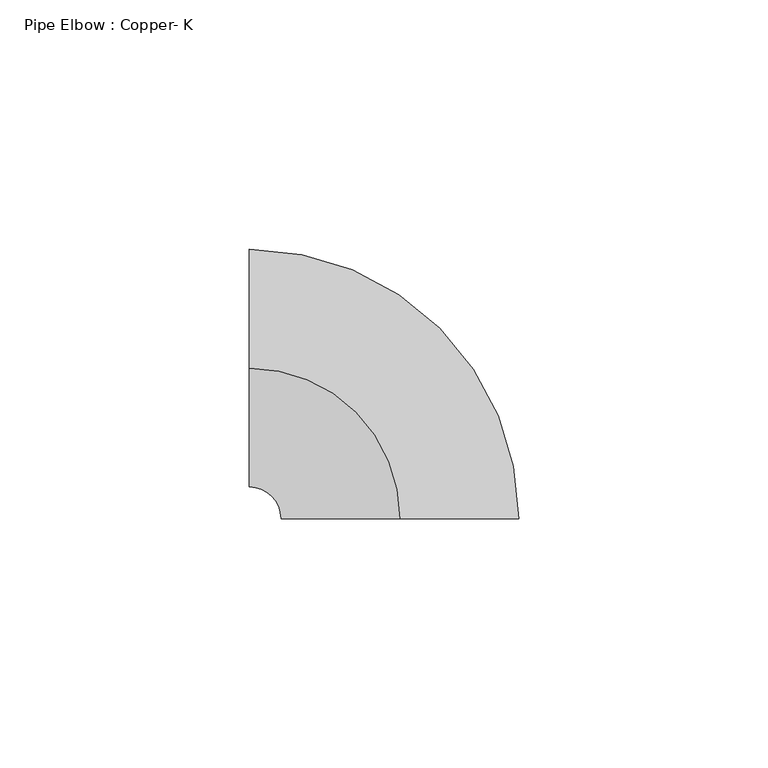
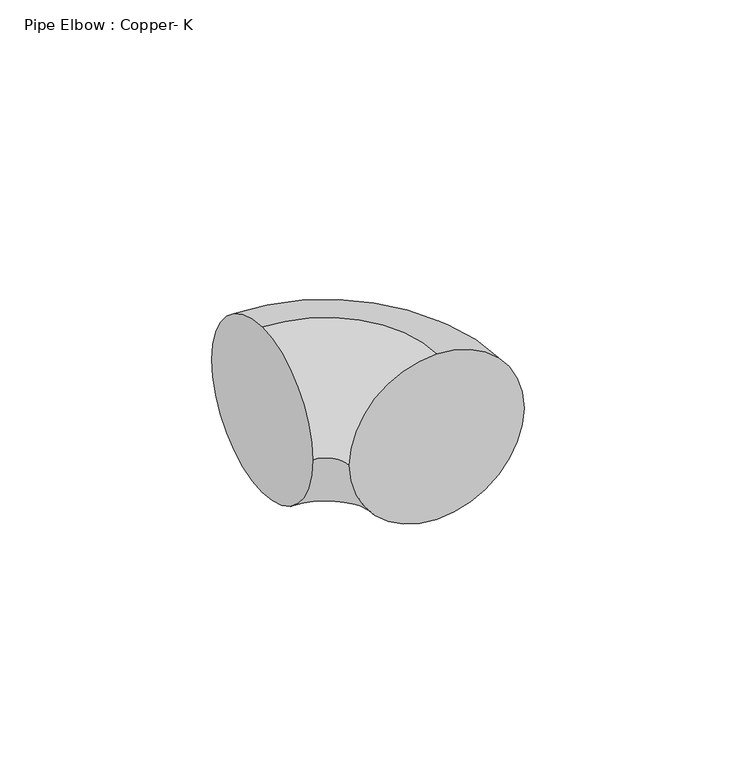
"""IFC4 building model written with IfcOpenShell, lengths in millimetres: pipe fitting geometry, Pipe Elbow : Copper- K."""

from ifc_helpers import new_model, si_unit, point, frame, origin, place, context, project, spatial, circle_curve, ellipse_curve, trimmed, source, transform, mapped, element, save
from ifc_brep_helpers import plane_surface, revolved_surface, advanced_brep


def pipe_elbow_copper_k_d9236e9c(model_context):
    return source(origin(), model_context, "Body", "AdvancedBrep", [
        advanced_brep(
        [(-30.1658987, 0.0, 23.8125), (-30.1658987, 23.8125, 0.0), (-30.1658987, 0.0, -23.8125), (-30.1658987, -23.8125, 0.0), (-0.0033989, -30.1658985, 23.8125), (-23.8158987, -30.1632155, 0.0), (-0.0033989, -30.1658985, -23.8125), (23.809101, -30.1685815, 0.0)],
        [
            (0, 1, circle_curve(frame((-30.1658987, 0.0, 0.0), z_axis=(-1.0, 0.0, 0.0), x_axis=(0.0, -1.0, 0.0)), 23.8125)),
            (1, 2, circle_curve(frame((-30.1658987, 0.0, 0.0), z_axis=(-1.0, 0.0, 0.0), x_axis=(0.0, -1.0, 0.0)), 23.8125)),
            (2, 3, circle_curve(frame((-30.1658987, 0.0, 0.0), z_axis=(-1.0, 0.0, 0.0), x_axis=(0.0, -1.0, 0.0)), 23.8125)),
            (3, 0, circle_curve(frame((-30.1658987, 0.0, 0.0), z_axis=(-1.0, 0.0, 0.0), x_axis=(0.0, -1.0, 0.0)), 23.8125)),
            (4, 5, circle_curve(frame((-0.0033989, -30.1658985, 0.0), z_axis=(-0.00011267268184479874, -0.9999999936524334, 0.0), x_axis=(-0.9999999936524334, 0.00011267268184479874, 0.0)), 23.8125)),
            (5, 6, circle_curve(frame((-0.0033989, -30.1658985, 0.0), z_axis=(-0.00011267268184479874, -0.9999999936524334, 0.0), x_axis=(-0.9999999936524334, 0.00011267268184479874, 0.0)), 23.8125)),
            (6, 7, circle_curve(frame((-0.0033989, -30.1658985, 0.0), z_axis=(-0.00011267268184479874, -0.9999999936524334, 0.0), x_axis=(-0.9999999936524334, 0.00011267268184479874, 0.0)), 23.8125)),
            (7, 4, circle_curve(frame((-0.0033989, -30.1658985, 0.0), z_axis=(-0.00011267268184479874, -0.9999999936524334, 0.0), x_axis=(-0.9999999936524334, 0.00011267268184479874, 0.0)), 23.8125)),
            (4, 0, circle_curve(frame((-30.1658987, -30.1625, 23.8125), z_axis=(0.0, 0.0, 1.0), x_axis=(0.0, 1.0, 0.0)), 30.1625)),
            (3, 5, circle_curve(frame((-30.1658987, -30.1625, 0.0), z_axis=(0.0, 0.0, -1.0), x_axis=(0.0, 1.0, 0.0)), 6.35)),
            (2, 6, circle_curve(frame((-30.1658987, -30.1625, -23.8125), z_axis=(0.0, 0.0, -1.0), x_axis=(0.0, 1.0, 0.0)), 30.1625)),
            (1, 7, circle_curve(frame((-30.1658987, -30.1625, 0.0), z_axis=(0.0, 0.0, -1.0), x_axis=(0.0, 1.0, 0.0)), 53.975)),
        ],
        [
            plane_surface(frame((-30.1658987, 0.0, 0.0), z_axis=(-1.0, 0.0, 0.0), x_axis=(0.0, 0.0, 1.0))),
            plane_surface(frame((-0.0033989, -30.1658985, 0.0), z_axis=(-0.00011267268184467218, -0.9999999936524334, 0.0), x_axis=(0.0, 0.0, 1.0))),
            revolved_surface(trimmed(ellipse_curve(frame((-30.1658987, 0.0, 0.0), z_axis=(1.0, 0.0, 0.0), x_axis=(0.0, -1.0, 0.0)), 23.8125, 23.8125), [point((-30.1658987, 0.0, 23.8125))], [point((-30.1658987, -23.8125, 0.0))], True, "CARTESIAN"), (-30.1658987, -30.1625, 0.0), (0.0, 0.0, 1.0)),
            revolved_surface(trimmed(ellipse_curve(frame((-30.1658987, 0.0, 0.0), z_axis=(1.0, 0.0, 0.0), x_axis=(0.0, -1.0, 0.0)), 23.8125, 23.8125), [point((-30.1658987, -23.8125, 0.0))], [point((-30.1658987, 0.0, -23.8125))], True, "CARTESIAN"), (-30.1658987, -30.1625, 0.0), (0.0, 0.0, 1.0)),
            revolved_surface(trimmed(ellipse_curve(frame((-30.1658987, 0.0, 0.0), z_axis=(1.0, 0.0, 0.0), x_axis=(0.0, -1.0, 0.0)), 23.8125, 23.8125), [point((-30.1658987, 0.0, -23.8125))], [point((-30.1658987, 23.8125, 0.0))], True, "CARTESIAN"), (-30.1658987, -30.1625, 0.0), (0.0, 0.0, 1.0)),
            revolved_surface(trimmed(ellipse_curve(frame((-30.1658987, 0.0, 0.0), z_axis=(1.0, 0.0, 0.0), x_axis=(0.0, -1.0, 0.0)), 23.8125, 23.8125), [point((-30.1658987, 23.8125, 0.0))], [point((-30.1658987, 0.0, 23.8125))], True, "CARTESIAN"), (-30.1658987, -30.1625, 0.0), (0.0, 0.0, 1.0)),
        ],
        [
            (0, [[1, 2, 3, 4]]),
            (1, [[5, 6, 7, 8]]),
            (2, [[-5, 9, -4, 10]]),
            (3, [[-6, -10, -3, 11]]),
            (4, [[-7, -11, -2, 12]]),
            (5, [[-8, -12, -1, -9]]),
        ],
    ),
        advanced_brep(
        [(-30.1658987, 0.0, 23.8125), (-30.1658987, 23.8125, 0.0), (-30.1658987, 0.0, -23.8125), (-30.1658987, -23.8125, 0.0), (-0.0033989, -30.1658985, 23.8125), (-23.8158987, -30.1632155, 0.0), (-0.0033989, -30.1658985, -23.8125), (23.809101, -30.1685815, 0.0)],
        [
            (0, 1, circle_curve(frame((-30.1658987, 0.0, 0.0), z_axis=(-1.0, 0.0, 0.0), x_axis=(0.0, -1.0, 0.0)), 23.8125)),
            (1, 2, circle_curve(frame((-30.1658987, 0.0, 0.0), z_axis=(-1.0, 0.0, 0.0), x_axis=(0.0, -1.0, 0.0)), 23.8125)),
            (2, 3, circle_curve(frame((-30.1658987, 0.0, 0.0), z_axis=(-1.0, 0.0, 0.0), x_axis=(0.0, -1.0, 0.0)), 23.8125)),
            (3, 0, circle_curve(frame((-30.1658987, 0.0, 0.0), z_axis=(-1.0, 0.0, 0.0), x_axis=(0.0, -1.0, 0.0)), 23.8125)),
            (4, 5, circle_curve(frame((-0.0033989, -30.1658985, 0.0), z_axis=(-0.00011267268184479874, -0.9999999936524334, 0.0), x_axis=(-0.9999999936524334, 0.00011267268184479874, 0.0)), 23.8125)),
            (5, 6, circle_curve(frame((-0.0033989, -30.1658985, 0.0), z_axis=(-0.00011267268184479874, -0.9999999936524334, 0.0), x_axis=(-0.9999999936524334, 0.00011267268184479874, 0.0)), 23.8125)),
            (6, 7, circle_curve(frame((-0.0033989, -30.1658985, 0.0), z_axis=(-0.00011267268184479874, -0.9999999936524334, 0.0), x_axis=(-0.9999999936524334, 0.00011267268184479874, 0.0)), 23.8125)),
            (7, 4, circle_curve(frame((-0.0033989, -30.1658985, 0.0), z_axis=(-0.00011267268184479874, -0.9999999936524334, 0.0), x_axis=(-0.9999999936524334, 0.00011267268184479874, 0.0)), 23.8125)),
            (4, 0, circle_curve(frame((-30.1658987, -30.1625, 23.8125), z_axis=(0.0, 0.0, 1.0), x_axis=(0.0, 1.0, 0.0)), 30.1625)),
            (3, 5, circle_curve(frame((-30.1658987, -30.1625, 0.0), z_axis=(0.0, 0.0, -1.0), x_axis=(0.0, 1.0, 0.0)), 6.35)),
            (2, 6, circle_curve(frame((-30.1658987, -30.1625, -23.8125), z_axis=(0.0, 0.0, -1.0), x_axis=(0.0, 1.0, 0.0)), 30.1625)),
            (1, 7, circle_curve(frame((-30.1658987, -30.1625, 0.0), z_axis=(0.0, 0.0, -1.0), x_axis=(0.0, 1.0, 0.0)), 53.975)),
        ],
        [
            plane_surface(frame((-30.1658987, 0.0, 0.0), z_axis=(-1.0, 0.0, 0.0), x_axis=(0.0, 0.0, 1.0))),
            plane_surface(frame((-0.0033989, -30.1658985, 0.0), z_axis=(-0.00011267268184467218, -0.9999999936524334, 0.0), x_axis=(0.0, 0.0, 1.0))),
            revolved_surface(trimmed(ellipse_curve(frame((-30.1658987, 0.0, 0.0), z_axis=(1.0, 0.0, 0.0), x_axis=(0.0, -1.0, 0.0)), 23.8125, 23.8125), [point((-30.1658987, 0.0, 23.8125))], [point((-30.1658987, -23.8125, 0.0))], True, "CARTESIAN"), (-30.1658987, -30.1625, 0.0), (0.0, 0.0, 1.0)),
            revolved_surface(trimmed(ellipse_curve(frame((-30.1658987, 0.0, 0.0), z_axis=(1.0, 0.0, 0.0), x_axis=(0.0, -1.0, 0.0)), 23.8125, 23.8125), [point((-30.1658987, -23.8125, 0.0))], [point((-30.1658987, 0.0, -23.8125))], True, "CARTESIAN"), (-30.1658987, -30.1625, 0.0), (0.0, 0.0, 1.0)),
            revolved_surface(trimmed(ellipse_curve(frame((-30.1658987, 0.0, 0.0), z_axis=(1.0, 0.0, 0.0), x_axis=(0.0, -1.0, 0.0)), 23.8125, 23.8125), [point((-30.1658987, 0.0, -23.8125))], [point((-30.1658987, 23.8125, 0.0))], True, "CARTESIAN"), (-30.1658987, -30.1625, 0.0), (0.0, 0.0, 1.0)),
            revolved_surface(trimmed(ellipse_curve(frame((-30.1658987, 0.0, 0.0), z_axis=(1.0, 0.0, 0.0), x_axis=(0.0, -1.0, 0.0)), 23.8125, 23.8125), [point((-30.1658987, 23.8125, 0.0))], [point((-30.1658987, 0.0, 23.8125))], True, "CARTESIAN"), (-30.1658987, -30.1625, 0.0), (0.0, 0.0, 1.0)),
        ],
        [
            (0, [[1, 2, 3, 4]]),
            (1, [[5, 6, 7, 8]]),
            (2, [[-5, 9, -4, 10]]),
            (3, [[-6, -10, -3, 11]]),
            (4, [[-7, -11, -2, 12]]),
            (5, [[-8, -12, -1, -9]]),
        ],
    ),
    ])


if __name__ == "__main__":
    model = new_model("IFC4")
    model_context = context("Model", 3, world=origin())
    ifc_project = project(units=[si_unit("LENGTHUNIT", "METRE", prefix="MILLI")], contexts=[model_context])
    site = spatial("IfcSite", under=ifc_project)
    building = spatial("IfcBuilding", under=site)
    placement = place(None, origin())
    pipe_elbow_copper_k_shape = pipe_elbow_copper_k_d9236e9c(model_context)
    element("IfcPipeFitting", 1, ObjectType="Pipe Elbow : Copper- K", at=placement, inside=building, context=model_context, shape_type="MappedRepresentation", body=[
        mapped(pipe_elbow_copper_k_shape, transform((0.0, 0.0, 0.0), x_axis=(1.0, 0.0, 0.0), y_axis=(0.0, 1.0, 0.0), z_axis=(0.0, 0.0, 1.0))),
    ])
    save(model, "model.ifc")
